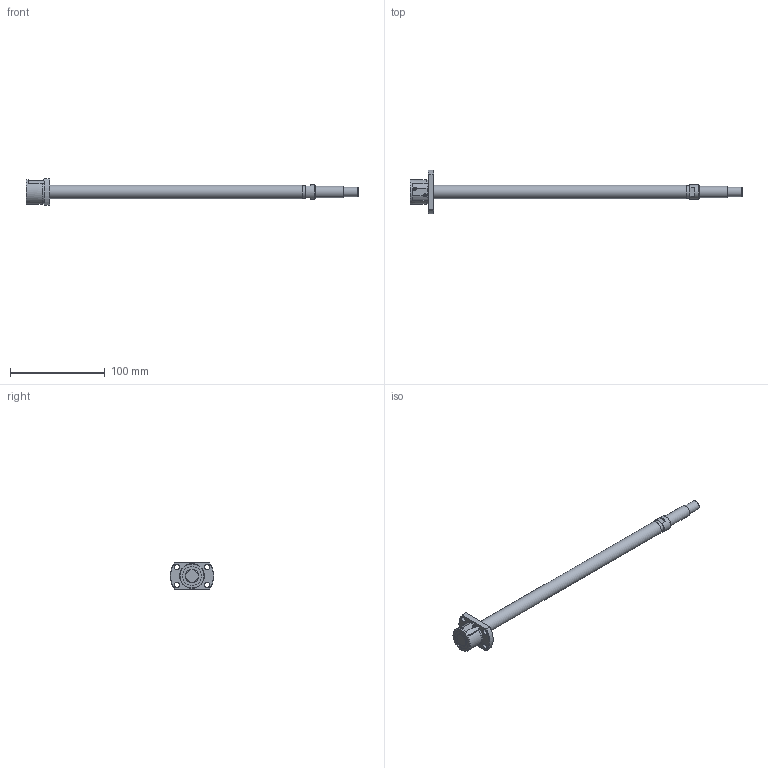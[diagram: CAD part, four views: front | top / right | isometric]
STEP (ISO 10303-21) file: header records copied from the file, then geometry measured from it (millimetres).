
FILE_DESCRIPTION( ( 'STEP AP203' ), '1' );
FILE_NAME( 'e:/temp/worker_83/temp/exporttempdir_4668_1827_gH0vP/format_0/SG1402-291R350C3A1X(0).stp', '2021-10-19T02:30:49', ( 'License CC BY-ND 4.0' ), ( 'CADENAS' ), ' ', 'PARTsolutions', ' ' );
FILE_SCHEMA( ( 'CONFIG_CONTROL_DESIGN' ) );
Length unit declared in the file: millimetre
Products named in the file (3): SG1402-291R350C3A1X(0); _SG1402-291R350C3A_shaft; _SG1402_nut
Assembly tree (2 placements, depth 2):
  SG1402-291R350C3A1X(0)
    _SG1402-291R350C3A_shaft
    _SG1402_nut
Bounding box: 350 x 46 x 28 mm (x, y, z)
Volume: 63796.7 mm3; surface area: 21208.3 mm2
Topology: 2 solids, 2 shells, 78 faces, 190 edges, 124 vertices
Faces by surface type: plane 38, cylinder 26, cone 13, torus 1
Full cylindrical faces by diameter (mm): 5.5 x4, 10 x1, 12 x1, 12.77 x1, 14 x2, 15 x1, 20 x2, 25.6 x1, 26 x1
Entity records: 2270 total; most frequent: CARTESIAN_POINT 433, DIRECTION 376, ORIENTED_EDGE 312, AXIS2_PLACEMENT_3D 157, EDGE_CURVE 156, EDGE_LOOP 120, VERTEX_POINT 114, FACE_OUTER_BOUND 93
